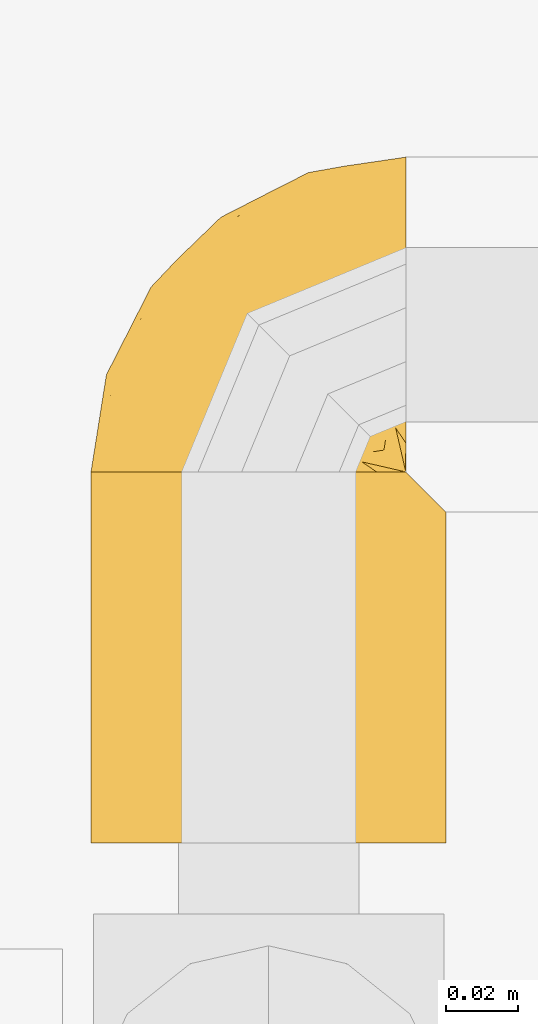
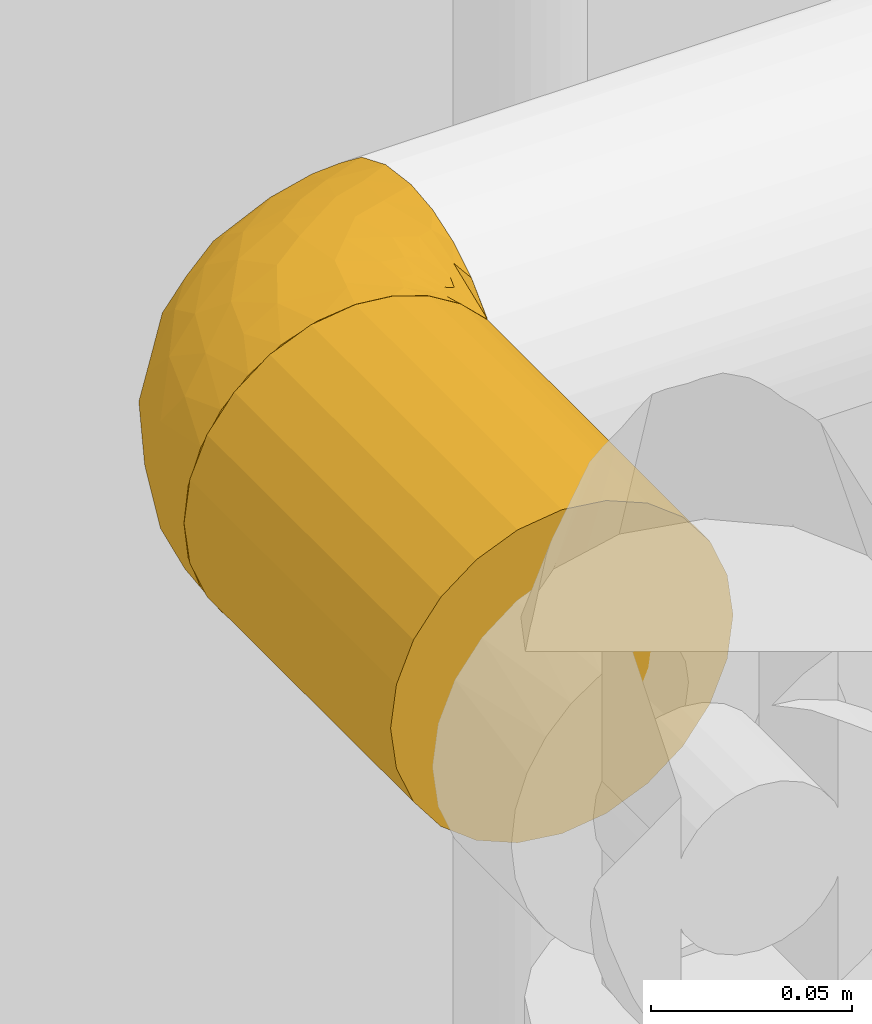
# One storey, part 39 of 94: 2 coverings.
"""IFC2X3 building model written with IfcOpenShell, lengths in millimetres."""

from ifc_helpers import new_model, entity, si_unit, converted_unit, derived_unit, direction, frame, origin, place, context, subcontext, project, spatial, faceted_brep, material, element, save


model = new_model("IFC2X3")

# Units and contexts
model_context = context("Model", 3, precision=0.01, world=origin(), true_north=direction((6.123031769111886e-17, 1.0)))
body_context = subcontext(model_context, "Body", "Model", "MODEL_VIEW")
ifc_project = project(units=[si_unit("LENGTHUNIT", "METRE", prefix="MILLI"), si_unit("AREAUNIT", "SQUARE_METRE"), si_unit("VOLUMEUNIT", "CUBIC_METRE"), converted_unit("PLANEANGLEUNIT", "DEGREE", entity("IfcRatioMeasure", 0.017453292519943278), si_unit("PLANEANGLEUNIT", "RADIAN"), dimensions=[0, 0, 0, 0, 0, 0, 0]), si_unit("MASSUNIT", "GRAM", prefix="KILO"), derived_unit("MASSDENSITYUNIT", [(si_unit("MASSUNIT", "GRAM", prefix="KILO"), 1), (si_unit("LENGTHUNIT", "METRE"), -3)]), derived_unit("IONCONCENTRATIONUNIT", [(si_unit("MASSUNIT", "GRAM", prefix="KILO"), 1), (si_unit("LENGTHUNIT", "METRE"), -3)]), derived_unit("MOMENTOFINERTIAUNIT", [(si_unit("LENGTHUNIT", "METRE"), 4)]), si_unit("TIMEUNIT", "SECOND"), si_unit("FREQUENCYUNIT", "HERTZ"), si_unit("THERMODYNAMICTEMPERATUREUNIT", "DEGREE_CELSIUS"), derived_unit("THERMALTRANSMITTANCEUNIT", [(si_unit("MASSUNIT", "GRAM", prefix="KILO"), 1), (si_unit("THERMODYNAMICTEMPERATUREUNIT", "KELVIN"), -1), (si_unit("TIMEUNIT", "SECOND"), -3)]), derived_unit("THERMALCONDUCTANCEUNIT", [(si_unit("MASSUNIT", "GRAM", prefix="KILO"), 1), (si_unit("THERMODYNAMICTEMPERATUREUNIT", "KELVIN"), -1), (si_unit("TIMEUNIT", "SECOND"), -3), (si_unit("LENGTHUNIT", "METRE"), 1)]), derived_unit("VOLUMETRICFLOWRATEUNIT", [(si_unit("LENGTHUNIT", "METRE"), 3), (si_unit("TIMEUNIT", "SECOND"), -1)]), derived_unit("MASSFLOWRATEUNIT", [(si_unit("MASSUNIT", "GRAM", prefix="KILO"), 1), (si_unit("TIMEUNIT", "SECOND"), -1)]), derived_unit("ROTATIONALFREQUENCYUNIT", [(si_unit("TIMEUNIT", "SECOND"), -1)]), si_unit("ELECTRICCURRENTUNIT", "AMPERE"), si_unit("ELECTRICVOLTAGEUNIT", "VOLT"), si_unit("POWERUNIT", "WATT"), si_unit("FORCEUNIT", "NEWTON", prefix="KILO"), si_unit("ILLUMINANCEUNIT", "LUX"), si_unit("LUMINOUSFLUXUNIT", "LUMEN"), si_unit("LUMINOUSINTENSITYUNIT", "CANDELA"), derived_unit("USERDEFINED", [(si_unit("MASSUNIT", "GRAM", prefix="KILO"), -1), (si_unit("LENGTHUNIT", "METRE"), -2), (si_unit("TIMEUNIT", "SECOND"), 3), (si_unit("LUMINOUSFLUXUNIT", "LUMEN"), 1)]), derived_unit("USERDEFINED", [(si_unit("MASSUNIT", "GRAM", prefix="KILO"), 1), (si_unit("TIMEUNIT", "SECOND"), -3), (si_unit("LENGTHUNIT", "METRE"), 3), (si_unit("ELECTRICCURRENTUNIT", "AMPERE"), -2)]), derived_unit("SOUNDPOWERUNIT", [(si_unit("MASSUNIT", "GRAM", prefix="KILO"), 1), (si_unit("TIMEUNIT", "SECOND"), -3), (si_unit("LENGTHUNIT", "METRE"), 2)]), derived_unit("SOUNDPRESSUREUNIT", [(si_unit("MASSUNIT", "GRAM", prefix="KILO"), 1), (si_unit("LENGTHUNIT", "METRE"), -1), (si_unit("TIMEUNIT", "SECOND"), -2)]), derived_unit("LINEARVELOCITYUNIT", [(si_unit("LENGTHUNIT", "METRE"), 1), (si_unit("TIMEUNIT", "SECOND"), -1)]), si_unit("PRESSUREUNIT", "PASCAL"), derived_unit("USERDEFINED", [(si_unit("MASSUNIT", "GRAM", prefix="KILO"), 1), (si_unit("LENGTHUNIT", "METRE"), -2), (si_unit("TIMEUNIT", "SECOND"), -2)]), derived_unit("LINEARFORCEUNIT", [(si_unit("MASSUNIT", "GRAM", prefix="KILO"), 1), (si_unit("TIMEUNIT", "SECOND"), -2)]), derived_unit("PLANARFORCEUNIT", [(si_unit("MASSUNIT", "GRAM", prefix="KILO"), 1), (si_unit("LENGTHUNIT", "METRE"), -1), (si_unit("TIMEUNIT", "SECOND"), -2)]), derived_unit("SPECIFICHEATCAPACITYUNIT", [(si_unit("THERMODYNAMICTEMPERATUREUNIT", "KELVIN"), -1), (si_unit("LENGTHUNIT", "METRE"), 2), (si_unit("TIMEUNIT", "SECOND"), -2)]), derived_unit("HEATINGVALUEUNIT", [(si_unit("LENGTHUNIT", "METRE"), 2), (si_unit("TIMEUNIT", "SECOND"), -2)]), derived_unit("VAPORPERMEABILITYUNIT", [(si_unit("LENGTHUNIT", "METRE"), -1), (si_unit("TIMEUNIT", "SECOND"), 1)]), derived_unit("DYNAMICVISCOSITYUNIT", [(si_unit("MASSUNIT", "GRAM", prefix="KILO"), 1), (si_unit("TIMEUNIT", "SECOND"), -1), (si_unit("LENGTHUNIT", "METRE"), -1)]), derived_unit("THERMALEXPANSIONCOEFFICIENTUNIT", [(si_unit("THERMODYNAMICTEMPERATUREUNIT", "KELVIN"), -1)]), derived_unit("MODULUSOFELASTICITYUNIT", [(si_unit("MASSUNIT", "GRAM", prefix="KILO"), 1), (si_unit("LENGTHUNIT", "METRE"), -1), (si_unit("TIMEUNIT", "SECOND"), -2)]), derived_unit("ISOTHERMALMOISTURECAPACITYUNIT", [(si_unit("LENGTHUNIT", "METRE"), 3), (si_unit("MASSUNIT", "GRAM", prefix="KILO"), -1)]), derived_unit("MOISTUREDIFFUSIVITYUNIT", [(si_unit("TIMEUNIT", "SECOND"), -1), (si_unit("LENGTHUNIT", "METRE"), 2)])], contexts=[model_context])

# Site, building, storey
site_placement = place(None, origin())
site = spatial("IfcSite", under=ifc_project, at=site_placement, Name="Default", CompositionType="ELEMENT")
building_placement = place(site_placement, origin())
building = spatial("IfcBuilding", under=site, at=building_placement, CompositionType="ELEMENT")
storey_placement = place(building_placement, origin())
storey = spatial("IfcBuildingStorey", under=building, at=storey_placement, Name="Niveau 0", CompositionType="ELEMENT", Elevation=0.0)

# Coverings
ifc_material = material(Name="Isolation - Laine minérale")
covering_1_placement = place(storey_placement, frame((-6334.979732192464, 9542.488570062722, 1313.1247278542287)))
element("IfcCovering", 1, at=covering_1_placement, inside=storey, material=ifc_material, Name="Isolation des canalisations:Laine minérale", ObjectType="Isolation des canalisations:Laine minérale", PredefinedType="INSULATION", context=body_context, shape_type="Brep", body=[
    faceted_brep([(39.80000147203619, 1.5952722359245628, 98.66106860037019), (29.409452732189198, 1.5952722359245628, 95.02286591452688), (20.09092500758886, 1.5952722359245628, 89.16445357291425), (12.310692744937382, 1.5952722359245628, 81.38031101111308), (6.457936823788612, 1.5952722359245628, 72.06086338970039), (2.8254783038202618, 1.5952722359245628, 61.67302846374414), (1.5952722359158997, 1.5952722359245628, 50.74229534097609), (2.829475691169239, 1.5952722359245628, 39.80000147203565), (6.4676783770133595, 1.5952722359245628, 29.409452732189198), (12.32609071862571, 1.5952722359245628, 20.09092500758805), (20.110233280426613, 1.5952722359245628, 12.310692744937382), (29.429680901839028, 1.5952722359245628, 6.45793682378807), (39.81751582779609, 1.5952722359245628, 2.8254783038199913), (50.74824895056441, 1.5952722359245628, 1.5952722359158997), (61.40726407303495, 1.5952722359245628, 2.7656470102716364), (71.55527012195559, 1.5952722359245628, 6.21812891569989), (80.71132587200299, 1.5952722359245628, 11.786856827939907), (88.43356355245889, 1.5952722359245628, 19.19665583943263), (88.43341551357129, 1.5952722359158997, 21.640924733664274), (88.43330788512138, 1.5952722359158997, 23.41797720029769), (88.43320025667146, 1.5952722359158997, 25.19502966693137), (88.43310943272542, 1.5952722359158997, 26.694623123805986), (88.4330186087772, 1.5952722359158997, 28.194216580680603), (88.43283696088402, 1.5952722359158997, 31.19340349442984), (88.43265531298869, 1.5952722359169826, 34.19259040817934), (88.4324736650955, 1.5952722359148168, 37.191777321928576), (88.43229201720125, 1.5952722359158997, 40.19096423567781), (88.43220119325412, 1.5952722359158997, 41.69055769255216), (88.43211036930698, 1.5952722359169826, 43.190151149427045), (88.43196233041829, 1.5952722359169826, 45.63442004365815), (88.43181429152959, 1.5952722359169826, 48.078688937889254), (88.43166625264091, 1.5952722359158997, 50.52295783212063), (88.43151821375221, 1.5952722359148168, 52.96722672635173), (88.43137017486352, 1.5952722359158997, 55.41149562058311), (88.43122213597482, 1.5952722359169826, 57.85576451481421), (88.43107409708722, 1.5952722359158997, 60.30003340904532), (88.43092605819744, 1.5952722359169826, 62.74430230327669), (88.43077801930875, 1.5952722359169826, 65.18857119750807), (88.43062998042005, 1.5952722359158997, 67.63284009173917), (88.43048194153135, 1.5952722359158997, 70.07710898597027), (88.43033390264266, 1.5952722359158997, 72.52137788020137), (88.43018586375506, 1.5952722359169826, 74.96564677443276), (88.43003782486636, 1.5952722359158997, 77.40991566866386), (88.42988978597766, 1.5952722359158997, 79.85418456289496), (88.42974174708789, 1.5952722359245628, 82.29845345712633), (80.68999205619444, 1.5952722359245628, 89.72008772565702), (71.52844048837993, 1.5952722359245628, 95.28494450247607), (61.38099413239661, 1.5952722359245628, 98.73072741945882), (50.7422953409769, 1.5952722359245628, 99.89527205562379), (88.74763221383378, 9.641963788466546, 11.779358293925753), (88.74796927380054, 18.798688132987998, 6.214163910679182), (88.74817813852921, 28.94385431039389, 2.7656000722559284), (88.74824888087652, 39.59527223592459, 1.5975737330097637), (88.7481474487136, 52.31622830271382, 3.2723193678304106), (88.74785006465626, 64.17027223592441, 8.18242512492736), (88.7473769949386, 74.34957053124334, 15.993275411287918), (88.74676047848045, 82.16042083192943, 26.172573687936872), (88.74604252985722, 87.07052659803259, 38.02661759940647), (88.74527207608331, 88.74527223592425, 50.747573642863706), (88.7445016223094, 87.07052659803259, 63.46852968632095), (88.74378367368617, 82.16042083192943, 75.32257359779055), (88.74316715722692, 74.34957053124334, 85.5018718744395), (88.74269408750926, 64.17027223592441, 93.31272216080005), (88.74239670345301, 52.31622830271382, 98.222827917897), (88.7422952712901, 39.59527223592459, 99.89757355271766), (88.74236601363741, 28.94385431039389, 98.72954721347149), (88.74257487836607, 18.798688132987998, 95.28098337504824), (88.74291193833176, 9.641963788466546, 89.71578899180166), (88.7433611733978, 1.908891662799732, 82.29847245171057), (88.7435092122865, 1.9088916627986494, 79.85420355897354), (88.74360003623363, 1.908891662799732, 78.35461010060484), (88.74371946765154, 1.908891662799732, 76.38267892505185), (88.74383889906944, 1.908891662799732, 74.41074774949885), (88.74395833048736, 1.908891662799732, 72.43881657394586), (88.74407776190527, 1.908891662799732, 70.46688539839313), (88.74419719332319, 1.908891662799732, 68.49495422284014), (88.7443166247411, 1.908891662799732, 66.52302304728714), (88.74443605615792, 1.908891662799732, 64.55109187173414), (88.74455548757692, 1.908891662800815, 62.57916069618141), (88.74467491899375, 1.908891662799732, 60.607229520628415), (88.74479435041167, 1.908891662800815, 58.63529834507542), (88.74491378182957, 1.908891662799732, 56.663367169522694), (88.74503321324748, 1.908891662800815, 54.6914359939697), (88.7451526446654, 1.908891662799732, 52.7195048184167), (88.74527207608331, 1.908891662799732, 50.747573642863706), (88.74539150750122, 1.908891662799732, 48.77564246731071), (88.74551093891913, 1.908891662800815, 46.803711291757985), (88.74563037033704, 1.908891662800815, 44.83178011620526), (88.74574980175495, 1.908891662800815, 42.85984894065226), (88.74586923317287, 1.908891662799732, 40.88791776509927), (88.74598866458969, 1.908891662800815, 38.91598658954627), (88.74610809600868, 1.908891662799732, 36.944055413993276), (88.74622752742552, 1.908891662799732, 34.97212423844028), (88.74640917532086, 1.908891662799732, 31.972937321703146), (88.74659082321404, 1.908891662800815, 28.97375040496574), (88.74673886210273, 1.908891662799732, 26.529481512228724), (88.74688690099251, 1.908891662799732, 24.085212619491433), (88.74703493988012, 1.908891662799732, 21.640943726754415), (88.7471829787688, 1.908891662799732, 19.196674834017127), (88.53071891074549, 1.8241875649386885, 53.75562811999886), (88.52204228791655, 1.815624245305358, 51.835053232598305), (88.52057189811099, 1.8147227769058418, 61.47518945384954), (88.52700351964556, 1.8212241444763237, 63.56511361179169), (88.54109137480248, 1.8331787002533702, 48.00331605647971), (88.53345910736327, 1.828016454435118, 77.2522826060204), (88.48949139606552, 1.7792781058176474, 80.70142431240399), (88.51860589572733, 1.8114926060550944, 42.4403591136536), (88.52519850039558, 1.8170346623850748, 22.86306462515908), (88.52705876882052, 1.81898896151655, 24.702504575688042), (88.51528345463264, 1.8098308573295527, 71.37237706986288), (88.52537071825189, 1.820221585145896, 73.40612698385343), (88.50507360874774, 1.796462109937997, 44.41228948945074), (88.53042297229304, 1.8230063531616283, 37.93000744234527), (88.53383804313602, 1.8262968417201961, 39.81537398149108), (88.51674886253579, 1.8091041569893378, 35.95807546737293), (88.52920173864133, 1.8225274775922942, 49.76159483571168), (88.52179220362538, 1.817034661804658, 79.10439350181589), (88.52771772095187, 1.8194169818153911, 21.029863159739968), (88.53635033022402, 1.8294378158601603, 55.677389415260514), (88.53646352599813, 1.8301744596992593, 67.50897646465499), (88.53183122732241, 1.82588831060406, 65.61683550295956), (88.53527069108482, 1.8272900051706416, 34.106869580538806), (88.53328757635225, 1.8267767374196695, 57.55446376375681), (88.53343868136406, 1.8278964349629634, 75.39670080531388), (88.5215987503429, 1.8170346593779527, 82.29845902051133), (88.49296873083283, 1.7479156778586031, 82.29845728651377), (88.46433871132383, 1.6787966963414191, 82.29845555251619), (88.52542055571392, 1.8170346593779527, 19.19666140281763), (88.59453953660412, 1.8456646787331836, 19.19666558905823), (88.6636585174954, 1.8742946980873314, 19.196669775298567), (88.51112878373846, 1.802653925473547, 32.21444452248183), (88.52929269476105, 1.8237404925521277, 69.43788059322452), (88.52273982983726, 1.8159875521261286, 46.25057589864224), (88.52417442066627, 1.8182226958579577, 59.4929013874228), (88.50708475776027, 1.7977740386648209, 29.42153895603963), (88.52885264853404, 1.8208977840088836, 27.44442542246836), (88.65983671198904, 1.8742946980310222, 82.298467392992), (88.59071773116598, 1.8456646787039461, 82.29846320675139), (88.4681605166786, 1.6787966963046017, 19.196657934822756), (88.49679053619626, 1.7479156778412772, 19.196659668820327), (85.22361984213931, 23.495219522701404, 4.212371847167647), (85.9386544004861, 13.747756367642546, 8.746311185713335), (81.08089670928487, 22.409779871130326, 4.212120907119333), (83.1353627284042, 10.562522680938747, 9.957545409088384), (79.24824889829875, 37.049754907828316, 1.5969983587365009), (81.29187889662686, 37.59734391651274, 1.5971221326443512), (55.83928359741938, 20.595272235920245, 1.5955805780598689), (66.39842553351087, 16.020149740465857, 2.9364456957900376), (67.94322214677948, 9.261677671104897, 4.214493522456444), (69.748248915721, 34.50423757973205, 1.5964229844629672), (80.6762875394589, 9.667897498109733, 9.407118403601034), (79.79139077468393, 7.20291242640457, 9.9652465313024), (74.3239890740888, 23.94474674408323, 2.937069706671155), (66.8575240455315, 5.119390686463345, 4.214427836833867), (76.60590690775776, 4.402893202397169, 8.752220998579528), (79.65184798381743, 17.541506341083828, 5.692378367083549), (52.74617722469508, 9.051642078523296, 1.5953932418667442), (53.29376627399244, 11.095272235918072, 1.5954264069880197), (73.61448673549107, 16.72885944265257, 4.4840045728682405), (62.793766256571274, 27.54975490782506, 1.5960017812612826), (73.8826093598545, 12.071559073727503, 5.767458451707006), (75.33205187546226, 47.62395095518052, 2.6132139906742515), (65.9136542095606, 44.00144112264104, 2.6584502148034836), (53.85001329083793, 58.899698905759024, 11.13176622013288), (59.13832379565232, 72.66771487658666, 20.825156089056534), (71.1684839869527, 67.20155656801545, 11.753191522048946), (67.00820280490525, 54.07984229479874, 5.337577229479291), (78.88326294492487, 57.54110754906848, 5.33829688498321), (37.51978743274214, 72.10110329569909, 50.744471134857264), (61.81444106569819, 84.47984763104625, 50.74594255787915), (53.875831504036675, 80.24801351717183, 40.339929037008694), (25.78746475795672, 13.851436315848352, 9.122731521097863), (36.246992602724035, 15.165285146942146, 4.35016703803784), (29.563978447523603, 60.7776584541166, 32.645671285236), (30.7723157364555, 55.38583609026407, 23.76769952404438), (15.293139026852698, 43.89737524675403, 35.61317079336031), (71.31440637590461, 86.12648113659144, 41.697379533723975), (47.2422529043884, 73.23168363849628, 30.50960544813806), (43.50564917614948, 64.74738573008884, 21.747991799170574), (75.29166459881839, 77.40373146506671, 20.826134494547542), (67.10386944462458, 82.14716981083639, 31.93737339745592), (37.10130620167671, 52.829115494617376, 15.983519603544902), (44.51767426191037, 48.878965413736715, 9.509326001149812), (33.70715889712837, 40.607220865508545, 11.40473708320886), (44.054542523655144, 28.76995319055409, 3.7231267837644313), (30.04660202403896, 27.448445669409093, 9.122989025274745), (18.31444347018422, 19.800365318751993, 15.982383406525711), (5.8606968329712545, 28.52610329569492, 50.74255367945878), (7.042389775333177, 22.71562192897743, 34.50270408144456), (25.616420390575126, 42.31748570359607, 18.53441271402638), (15.888500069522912, 33.68382770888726, 24.586082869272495), (10.601993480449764, 16.806973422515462, 24.58576244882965), (38.504490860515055, 71.07858054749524, 39.07511733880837), (25.345689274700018, 60.332491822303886, 42.344646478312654), (53.1664222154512, 33.37332146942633, 2.5633984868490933), (18.23944114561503, 52.82075697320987, 50.743303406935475), (52.69748607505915, 43.46542968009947, 4.722567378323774), (58.174752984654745, 79.2001746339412, 69.55461094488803), (71.70037720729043, 86.24488809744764, 59.586376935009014), (54.573780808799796, 80.83807017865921, 59.86565761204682), (42.49711842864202, 72.52816019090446, 66.13739741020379), (75.0612155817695, 83.87397883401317, 69.55563486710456), (24.523036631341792, 35.798660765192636, 85.49173377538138), (25.784632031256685, 48.02046276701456, 78.98707796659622), (15.876647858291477, 33.68736739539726, 76.88531891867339), (37.08768754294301, 52.83844921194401, 85.49211806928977), (35.71169395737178, 59.75598123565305, 78.28575461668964), (36.22869912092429, 15.17001623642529, 97.13391196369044), (70.53512165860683, 45.55141709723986, 98.95423445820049), (69.7422953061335, 34.50423757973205, 99.89642280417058), (79.24229528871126, 37.049754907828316, 99.89699817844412), (7.035316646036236, 22.71467774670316, 66.9690913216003), (69.23904887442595, 76.07714087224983, 80.66701657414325), (30.02799180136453, 27.45465165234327, 92.35567219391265), (25.767724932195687, 13.854008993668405, 92.35541371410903), (76.87304228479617, 68.47065883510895, 89.74017186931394), (74.00198411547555, 56.45843349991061, 96.15536033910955), (48.408721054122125, 68.08854506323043, 79.62469721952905), (62.623168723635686, 64.29272071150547, 89.73930965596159), (31.220245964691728, 66.01125638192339, 59.50697660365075), (29.559249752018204, 60.78019542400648, 68.83324547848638), (79.82374634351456, 48.01911236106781, 99.01439619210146), (10.589691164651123, 16.809109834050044, 76.88499895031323), (15.286332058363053, 43.900853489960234, 65.85437489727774), (18.297402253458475, 19.80368192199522, 85.490978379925), (44.04702318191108, 28.786726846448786, 97.76347934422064), (55.83332998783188, 20.595272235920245, 99.89558039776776), (54.23245256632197, 35.485066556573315, 98.78952071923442), (62.787812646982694, 27.549754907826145, 99.89600160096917), (52.740223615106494, 9.051642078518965, 99.89539306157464), (53.28781266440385, 11.095272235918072, 99.8954262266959), (48.409646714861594, 53.16291239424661, 91.5037189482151), (64.14028018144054, 52.05308452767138, 96.42764252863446), (40.10383431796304, 41.401037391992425, 93.14927493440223), (62.88780644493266, 40.721221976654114, 99.08410724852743), (47.67063750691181, 60.91677547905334, 86.09088933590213), (55.386776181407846, 45.94061161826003, 96.67845016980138), (81.07525983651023, 22.409778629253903, 97.28209724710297), (78.26294051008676, 16.46425424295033, 95.72829059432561), (74.31783337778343, 23.943292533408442, 98.55608611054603), (85.21798287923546, 23.495218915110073, 97.28234831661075), (85.9335668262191, 13.74775580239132, 92.74849547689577), (83.13010161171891, 10.564867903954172, 91.53837256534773), (82.67959558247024, 7.656624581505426, 90.11469038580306), (73.61426191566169, 16.72348133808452, 97.00658021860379), (79.7552999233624, 7.216517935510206, 91.55141118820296), (67.91563479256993, 9.263185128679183, 97.28531038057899), (66.83052878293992, 5.119593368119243, 97.28524480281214), (76.5819458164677, 4.405878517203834, 92.75303977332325), (66.39481189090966, 16.01862728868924, 98.55536129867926), (72.78109673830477, 10.692146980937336, 95.80716586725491)], [[[0, 1, 2, 3, 4, 5, 6, 7, 8, 9, 10, 11, 12, 13, 14, 15, 16, 17, 18, 19, 20, 21, 22, 23, 24, 25, 26, 27, 28, 29, 30, 31, 32, 33, 34, 35, 36, 37, 38, 39, 40, 41, 42, 43, 44, 45, 46, 47, 48]], [[49, 50, 51, 52, 53, 54, 55, 56, 57, 58, 59, 60, 61, 62, 63, 64, 65, 66, 67, 68, 69, 70, 71, 72, 73, 74, 75, 76, 77, 78, 79, 80, 81, 82, 83, 84, 85, 86, 87, 88, 89, 90, 91, 92, 93, 94, 95, 96, 97, 98]], [[99, 100, 83]], [[101, 102, 36]], [[85, 103, 86]], [[71, 70, 104]], [[105, 69, 68]], [[28, 27, 106]], [[19, 107, 108]], [[109, 73, 110]], [[29, 28, 111]], [[26, 112, 113]], [[108, 96, 95]], [[114, 92, 91]], [[103, 85, 115]], [[96, 107, 97]], [[116, 70, 69]], [[107, 18, 117]], [[78, 102, 101]], [[99, 118, 33]], [[76, 119, 120]], [[121, 92, 114]], [[112, 90, 113]], [[88, 111, 106]], [[41, 40, 110]], [[107, 96, 108]], [[33, 118, 122]], [[91, 90, 112]], [[38, 120, 119]], [[84, 115, 85]], [[69, 105, 116]], [[71, 123, 72]], [[105, 124, 125, 126, 44]], [[117, 18, 17]], [[42, 116, 43]], [[117, 127, 128, 129, 98]], [[110, 123, 41]], [[43, 116, 105]], [[121, 24, 130]], [[25, 114, 112]], [[114, 25, 24]], [[104, 123, 71]], [[91, 112, 114]], [[104, 116, 42]], [[25, 112, 26]], [[110, 72, 123]], [[37, 120, 38]], [[41, 123, 42]], [[74, 73, 109]], [[131, 75, 74]], [[119, 131, 38]], [[109, 110, 40]], [[109, 40, 39]], [[73, 72, 110]], [[123, 104, 42]], [[116, 104, 70]], [[27, 26, 113]], [[113, 89, 106]], [[87, 86, 132]], [[113, 106, 27]], [[76, 75, 119]], [[132, 111, 87]], [[106, 111, 28]], [[132, 29, 111]], [[87, 111, 88]], [[88, 106, 89]], [[113, 90, 89]], [[131, 119, 75]], [[39, 38, 131]], [[120, 37, 102]], [[131, 109, 39]], [[109, 131, 74]], [[78, 77, 102]], [[77, 120, 102]], [[77, 76, 120]], [[122, 80, 133]], [[37, 36, 102]], [[34, 122, 133]], [[79, 78, 101]], [[35, 101, 36]], [[132, 30, 29]], [[80, 79, 133]], [[30, 103, 115]], [[31, 30, 115]], [[86, 103, 132]], [[100, 115, 84]], [[32, 31, 100]], [[115, 100, 31]], [[33, 32, 99]], [[118, 81, 122]], [[100, 84, 83]], [[99, 82, 118]], [[81, 118, 82]], [[34, 33, 122]], [[82, 99, 83]], [[100, 99, 32]], [[35, 34, 133]], [[122, 81, 80]], [[133, 101, 35]], [[101, 133, 79]], [[134, 94, 93]], [[24, 121, 114]], [[132, 103, 30]], [[121, 93, 92]], [[93, 121, 130]], [[97, 107, 117]], [[108, 21, 20, 19]], [[22, 135, 134]], [[21, 135, 22]], [[134, 135, 94]], [[108, 95, 135]], [[108, 135, 21]], [[135, 95, 94]], [[134, 23, 22]], [[130, 23, 134]], [[43, 105, 44]], [[105, 68, 136, 137, 124]], [[97, 117, 98]], [[117, 17, 138, 139, 127]], [[19, 18, 107]], [[93, 130, 134]], [[23, 130, 24]], [[140, 141, 142]], [[143, 129, 128, 127]], [[51, 144, 145, 52]], [[146, 147, 148]], [[142, 149, 144]], [[150, 127, 151]], [[50, 140, 51]], [[142, 152, 149]], [[51, 140, 144]], [[129, 143, 141]], [[15, 14, 153]], [[148, 151, 154]], [[155, 141, 143]], [[151, 138, 154]], [[15, 153, 154]], [[17, 16, 138]], [[14, 13, 156, 157]], [[152, 155, 158]], [[159, 158, 147]], [[157, 148, 153]], [[15, 154, 16]], [[49, 98, 129]], [[49, 129, 141]], [[141, 50, 49]], [[160, 148, 147]], [[146, 148, 157]], [[138, 16, 154]], [[150, 158, 155]], [[151, 127, 139, 138]], [[141, 140, 50]], [[144, 140, 142]], [[157, 153, 14]], [[154, 153, 148]], [[149, 152, 159]], [[160, 147, 158]], [[147, 146, 159]], [[155, 152, 142]], [[159, 152, 158]], [[127, 150, 143]], [[160, 150, 151]], [[150, 160, 158]], [[148, 160, 151]], [[141, 155, 142]], [[155, 143, 150]], [[156, 13, 12]], [[161, 149, 162]], [[163, 164, 165]], [[166, 167, 161]], [[168, 169, 170]], [[54, 165, 55]], [[171, 172, 11]], [[173, 174, 175]], [[57, 176, 58]], [[173, 177, 178]], [[179, 56, 55]], [[54, 167, 165]], [[170, 180, 177]], [[56, 179, 180]], [[167, 54, 53]], [[181, 182, 183]], [[184, 146, 172]], [[172, 185, 184]], [[186, 185, 171]], [[186, 10, 9]], [[172, 146, 157, 156]], [[172, 12, 11]], [[173, 178, 174]], [[7, 187, 188]], [[189, 186, 190]], [[191, 186, 9]], [[175, 190, 188]], [[168, 192, 193]], [[189, 190, 174]], [[56, 180, 57]], [[9, 8, 191]], [[188, 8, 7]], [[7, 6, 187]], [[190, 191, 188]], [[159, 194, 162]], [[175, 187, 195]], [[177, 180, 164]], [[11, 10, 171]], [[176, 180, 170]], [[156, 12, 172]], [[163, 165, 166]], [[179, 165, 164]], [[53, 52, 145]], [[185, 189, 183]], [[184, 196, 194]], [[188, 191, 8]], [[186, 191, 190]], [[186, 171, 10]], [[172, 171, 185]], [[187, 175, 188]], [[193, 175, 195]], [[196, 163, 166]], [[163, 181, 178]], [[162, 166, 161]], [[184, 185, 183]], [[178, 177, 164]], [[177, 192, 170]], [[177, 173, 192]], [[176, 170, 169]], [[58, 176, 169]], [[57, 180, 176]], [[193, 192, 173]], [[168, 170, 192]], [[175, 193, 173]], [[168, 193, 195]], [[163, 178, 164]], [[184, 194, 146]], [[178, 181, 174]], [[189, 174, 181]], [[175, 174, 190]], [[183, 189, 181]], [[186, 189, 185]], [[182, 181, 163]], [[183, 182, 184]], [[163, 196, 182]], [[184, 182, 196]], [[165, 179, 55]], [[180, 179, 164]], [[161, 53, 145]], [[165, 167, 166]], [[53, 161, 167]], [[161, 145, 144, 149]], [[159, 162, 149]], [[196, 166, 162]], [[162, 194, 196]], [[146, 194, 159]], [[197, 198, 199]], [[58, 169, 198]], [[197, 199, 200]], [[198, 197, 201]], [[202, 203, 204]], [[60, 59, 201]], [[205, 206, 203]], [[1, 0, 207]], [[208, 209, 210]], [[187, 5, 211]], [[201, 212, 60]], [[213, 214, 207]], [[61, 215, 62]], [[62, 215, 216]], [[4, 211, 5]], [[217, 218, 212]], [[219, 220, 200]], [[216, 208, 221]], [[4, 3, 222]], [[62, 216, 63]], [[61, 60, 212]], [[211, 4, 222]], [[6, 5, 187]], [[217, 197, 200]], [[203, 223, 204]], [[3, 2, 224]], [[225, 213, 207]], [[204, 222, 224]], [[2, 1, 214]], [[204, 224, 202]], [[207, 226, 225]], [[227, 226, 228]], [[223, 211, 204]], [[214, 224, 2]], [[202, 224, 213]], [[0, 48, 229]], [[207, 229, 230, 226]], [[211, 223, 187]], [[218, 231, 232]], [[0, 229, 207]], [[205, 233, 231]], [[233, 213, 225]], [[217, 212, 197]], [[215, 212, 218]], [[228, 234, 227]], [[233, 205, 202]], [[208, 234, 209]], [[63, 221, 64]], [[235, 205, 231]], [[207, 214, 1]], [[224, 214, 213]], [[224, 222, 3]], [[211, 222, 204]], [[219, 223, 220]], [[187, 223, 195]], [[227, 233, 225]], [[234, 228, 209]], [[231, 233, 236]], [[221, 208, 210]], [[232, 208, 216]], [[64, 221, 210]], [[216, 221, 63]], [[233, 202, 213]], [[203, 202, 205]], [[205, 235, 206]], [[223, 203, 220]], [[200, 206, 217]], [[220, 203, 206]], [[232, 231, 236]], [[235, 218, 217]], [[212, 215, 61]], [[216, 215, 218]], [[218, 232, 216]], [[234, 232, 236]], [[232, 234, 208]], [[234, 236, 227]], [[233, 227, 236]], [[226, 227, 225]], [[198, 201, 59]], [[212, 201, 197]], [[58, 198, 59]], [[198, 169, 199]], [[169, 168, 199]], [[219, 200, 199]], [[219, 199, 168]], [[200, 220, 206]], [[168, 195, 219]], [[223, 219, 195]], [[218, 235, 231]], [[206, 235, 217]], [[65, 64, 210]], [[209, 237, 210]], [[238, 237, 239]], [[66, 240, 241]], [[242, 136, 241]], [[243, 137, 242]], [[243, 244, 245]], [[65, 240, 66]], [[136, 68, 67]], [[136, 67, 241]], [[246, 226, 230]], [[66, 241, 67]], [[210, 237, 240]], [[46, 247, 47]], [[209, 239, 237]], [[246, 247, 248]], [[47, 247, 230]], [[249, 250, 244]], [[239, 228, 244]], [[226, 246, 249]], [[250, 248, 245]], [[45, 44, 126]], [[237, 242, 241]], [[248, 46, 45]], [[45, 126, 248]], [[47, 230, 229, 48]], [[245, 126, 125]], [[126, 245, 248]], [[243, 124, 137]], [[210, 240, 65]], [[241, 240, 237]], [[248, 247, 46]], [[230, 247, 246]], [[226, 249, 228]], [[238, 239, 244]], [[239, 209, 228]], [[250, 249, 246]], [[228, 249, 244]], [[243, 242, 238]], [[136, 242, 137]], [[124, 243, 125]], [[125, 243, 245]], [[243, 238, 244]], [[237, 238, 242]], [[248, 250, 246]], [[244, 250, 245]]]),
])
covering_2_placement = place(storey_placement, frame((-6334.959732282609, 9441.43325833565, 1414.5952722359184)))
element("IfcCovering", 2, at=covering_2_placement, inside=storey, material=ifc_material, Name="Isolation des canalisations:Laine minérale", ObjectType="Isolation des canalisations:Laine minérale", PredefinedType="INSULATION", context=body_context, shape_type="Brep", body=[
    faceted_brep([(26.160272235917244, 102.6505839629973, -8.177444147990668), (38.00949255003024, 102.6505839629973, -3.2693363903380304), (50.72527223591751, 102.6505839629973, -1.5952722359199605), (61.50932585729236, 102.6505839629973, -2.7934343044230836), (71.75271291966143, 102.6505839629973, -6.322528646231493), (80.97382895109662, 102.6505839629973, -12.011169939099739), (88.72338609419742, 102.65058396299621, -19.58205077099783), (88.72715823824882, 102.65058396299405, -81.86389070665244), (80.97734761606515, 102.65058396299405, -89.43662503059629), (71.75540021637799, 102.65058396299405, -95.12674312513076), (61.51076631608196, 102.65058396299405, -98.65678605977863), (50.72527223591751, 102.65058396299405, -99.85527223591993), (38.00949255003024, 102.65058396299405, -98.18120808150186), (26.160272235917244, 102.65058396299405, -93.27310032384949), (15.985116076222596, 102.65058396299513, -85.46542839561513), (8.177444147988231, 102.65058396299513, -75.29027223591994), (3.269336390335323, 102.65058396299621, -63.441051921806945), (1.5952722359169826, 102.65058396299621, -50.725272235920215), (3.269336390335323, 102.65058396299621, -38.009492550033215), (8.177444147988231, 102.6505839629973, -26.160272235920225), (15.985116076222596, 102.6505839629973, -15.985116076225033), (50.72527223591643, 0.0, -1.5952722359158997), (38.00949255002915, 0.0, -3.2693363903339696), (26.160272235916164, 0.0, -8.177444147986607), (15.985116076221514, 0.0, -15.985116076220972), (8.17744414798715, 0.0, -26.160272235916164), (3.26933639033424, 0.0, -38.00949255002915), (1.5952722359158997, 0.0, -50.72527223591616), (3.26933639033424, 0.0, -63.44105192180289), (8.17744414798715, 0.0, -75.29027223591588), (15.985116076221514, 0.0, -85.46542839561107), (26.160272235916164, 0.0, -93.27310032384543), (38.00949255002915, 0.0, -98.1812080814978), (50.72527223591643, 0.0, -99.85527223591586), (63.4410519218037, 0.0, -98.1812080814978), (75.29027223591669, 0.0, -93.27310032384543), (85.46542839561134, 0.0, -85.46542839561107), (93.2731003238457, 0.0, -75.29027223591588), (98.18120808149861, 0.0, -63.44105192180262), (99.85527223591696, 0.0, -50.72527223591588), (98.18120808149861, 0.0, -38.00949255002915), (93.2731003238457, 0.0, -26.16027223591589), (85.46542839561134, 0.0, -15.985116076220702), (75.29027223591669, 0.0, -8.177444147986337), (63.4410519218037, 0.0, -3.2693363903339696), (99.13357168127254, 92.24279275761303, -59.11535237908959), (99.85527223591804, 91.52058405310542, -50.725272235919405), (96.98967301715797, 94.38718463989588, -67.2589385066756), (93.48656231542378, 97.89075913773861, -74.91677840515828), (96.98867155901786, 94.38618318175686, -34.18880395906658), (99.1333175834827, 92.24203046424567, -42.33372615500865), (93.48436437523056, 97.89002649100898, -26.529881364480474)], [[[0, 1, 2, 3, 4, 5, 6, 7, 8, 9, 10, 11, 12, 13, 14, 15, 16, 17, 18, 19, 20]], [[21, 22, 23, 24, 25, 26, 27, 28, 29, 30, 31, 32, 33, 34, 35, 36, 37, 38, 39, 40, 41, 42, 43, 44]], [[45, 46, 39]], [[45, 39, 38]], [[47, 38, 37]], [[47, 45, 38]], [[7, 48, 37]], [[47, 37, 48]], [[37, 36, 7]], [[8, 36, 35]], [[9, 35, 34]], [[10, 34, 33]], [[8, 35, 9]], [[9, 34, 10]], [[33, 11, 10]], [[36, 8, 7]], [[12, 11, 33, 32]], [[13, 12, 32, 31]], [[31, 30, 14, 13]], [[16, 15, 29, 28]], [[17, 16, 28, 27]], [[30, 29, 15, 14]], [[18, 17, 27, 26]], [[19, 18, 26, 25]], [[25, 24, 20, 19]], [[1, 0, 23, 22]], [[2, 1, 22, 21]], [[24, 23, 0, 20]], [[3, 21, 44]], [[4, 44, 43]], [[5, 43, 42]], [[2, 21, 3]], [[3, 44, 4]], [[43, 5, 4]], [[42, 6, 5]], [[49, 41, 40]], [[40, 39, 50]], [[46, 50, 39]], [[51, 6, 41]], [[50, 49, 40]], [[51, 41, 49]], [[41, 6, 42]], [[6, 51, 49, 50, 46, 45, 47, 48, 7]]]),
])

save(model, "model.ifc")
